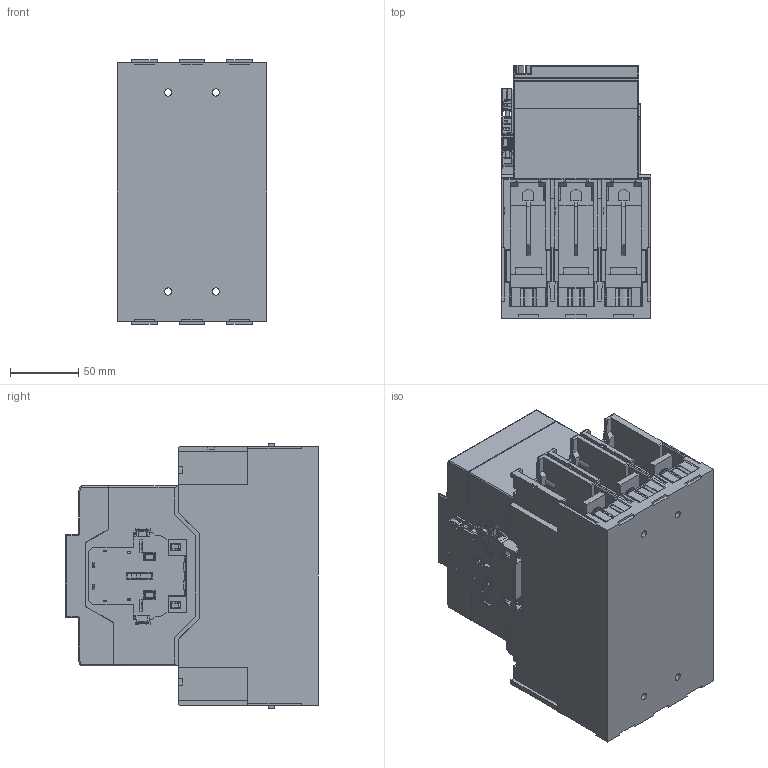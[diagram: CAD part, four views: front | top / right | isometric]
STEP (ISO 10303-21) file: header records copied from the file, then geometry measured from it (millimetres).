
FILE_DESCRIPTION (( 'STEP AP203' ), '1' );
FILE_NAME ('CWB225.11-RT.STEP', '2023-09-25T19:19:32', ( '' ), ( '' ), 'SwSTEP 2.0', 'SolidWorks 2022', '' );
FILE_SCHEMA (( 'CONFIG_CONTROL_DESIGN' ));
Products named in the file (1): CWB225.11-RT
Bounding box: 110 x 185.55 x 194 mm (x, y, z)
Volume: 2765957.2 mm3; surface area: 374699.5 mm2
Topology: 44 solids, 52 shells, 4898 faces, 13016 edges, 8131 vertices
Faces by surface type: plane 3038, cylinder 968, torus 310, bspline 287, sphere 184, cone 111
Entity records: 159463 total; most frequent: CARTESIAN_POINT 40612, ORIENTED_EDGE 25728, DIRECTION 23285, EDGE_CURVE 12864, VECTOR 9219, LINE 9219, VERTEX_POINT 8131, AXIS2_PLACEMENT_3D 7033
